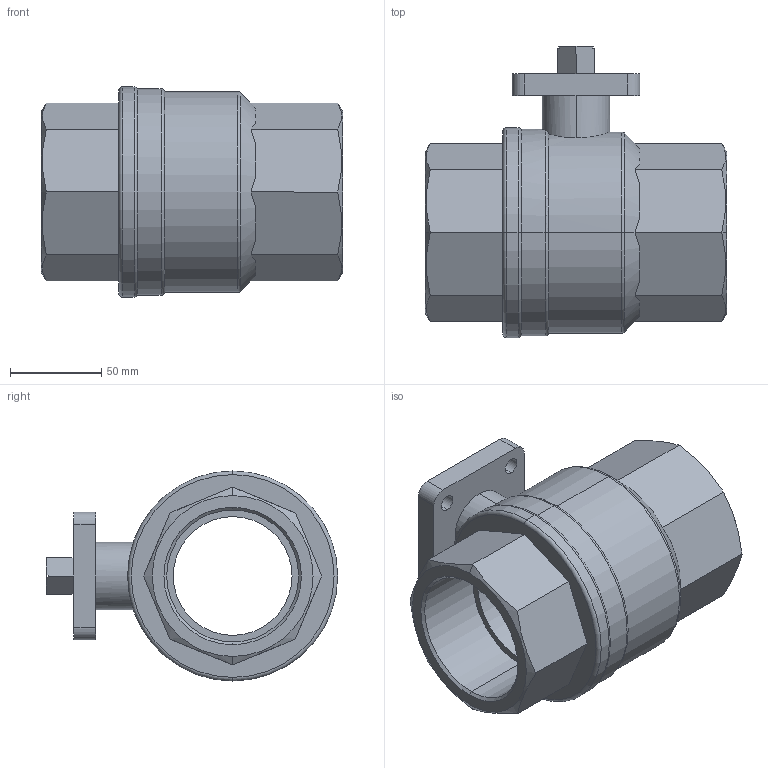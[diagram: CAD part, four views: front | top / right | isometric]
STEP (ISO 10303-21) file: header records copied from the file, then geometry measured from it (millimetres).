
FILE_DESCRIPTION (( 'STEP AP214' ), '1' );
FILE_NAME ('Ballvalve A25-DN65 G2 1_2.step', '2010-09-23T08:32:52', ( '' ), ( '' ), 'SwSTEP 2.0', 'SolidWorks 2010', '' );
FILE_SCHEMA (( 'AUTOMOTIVE_DESIGN' ));
Length unit declared in the file: millimetre
Products named in the file (1): Ballvalve A25-DN65 G2 1_2
Bounding box: 165 x 159.5 x 115 mm (x, y, z)
Volume: 783738.7 mm3; surface area: 114638.8 mm2
Topology: 1 solids, 1 shells, 92 faces, 228 edges, 144 vertices
Faces by surface type: plane 45, cylinder 28, cone 10, torus 9
Entity records: 3166 total; most frequent: CARTESIAN_POINT 841, DIRECTION 460, ORIENTED_EDGE 456, EDGE_CURVE 228, AXIS2_PLACEMENT_3D 177, VERTEX_POINT 144, EDGE_LOOP 108, VECTOR 106
